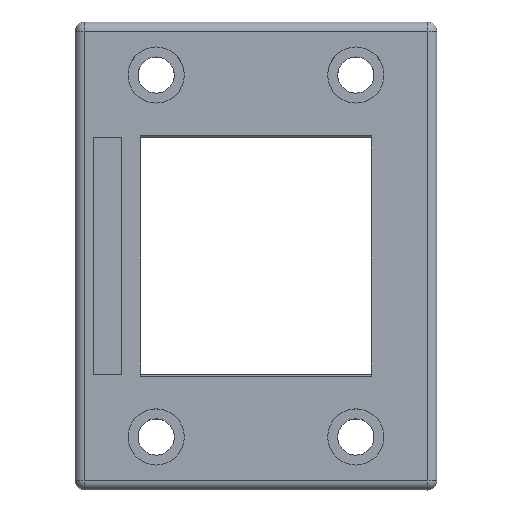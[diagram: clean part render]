
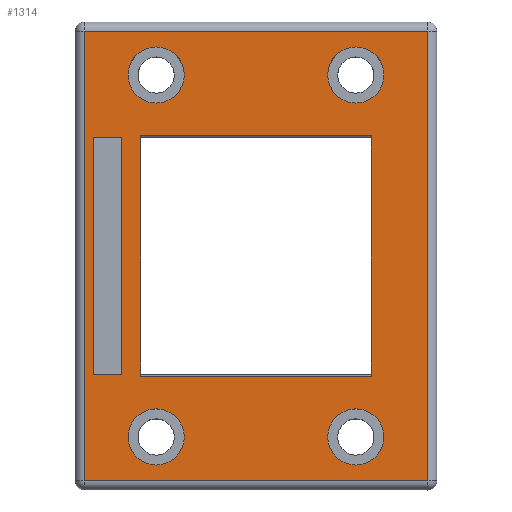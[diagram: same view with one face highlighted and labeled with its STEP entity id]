
A CAD part, top view. The second image highlights one B-rep face of the part: STEP entity #1314.
In plain terms, the highlighted planar face has unit normal (0, 0, 1).
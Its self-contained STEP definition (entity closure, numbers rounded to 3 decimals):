
#446=CIRCLE('',#12084,4.5);
#447=CIRCLE('',#12085,4.5);
#448=CIRCLE('',#12086,4.5);
#449=CIRCLE('',#12087,4.5);
#450=CIRCLE('',#12088,4.5);
#451=CIRCLE('',#12089,4.5);
#1314=ADVANCED_FACE('',(#2247,#2248,#2249,#2250,#2251,#2252,#2253),#1920,
 .T.);
#1920=PLANE('',#12090);
#2247=FACE_BOUND('',#2365,.T.);
#2248=FACE_BOUND('',#2366,.T.);
#2249=FACE_BOUND('',#2367,.T.);
#2250=FACE_BOUND('',#2368,.T.);
#2251=FACE_BOUND('',#2369,.T.);
#2252=FACE_BOUND('',#2370,.T.);
#2253=FACE_BOUND('',#2371,.T.);
#2365=EDGE_LOOP('',(#4026,#4027,#4028,#4029,#4030,#4031,#4032,#4033,#4034,
#4035,#4036,#4037));
#2366=EDGE_LOOP('',(#4038,#4039,#4040,#4041));
#2367=EDGE_LOOP('',(#4042,#4043,#4044,#4045));
#2368=EDGE_LOOP('',(#4046));
#2369=EDGE_LOOP('',(#4047,#4048));
#2370=EDGE_LOOP('',(#4049,#4050));
#2371=EDGE_LOOP('',(#4051));
#4026=ORIENTED_EDGE('',*,*,#8584,.T.);
#4027=ORIENTED_EDGE('',*,*,#8585,.T.);
#4028=ORIENTED_EDGE('',*,*,#8586,.T.);
#4029=ORIENTED_EDGE('',*,*,#8587,.T.);
#4030=ORIENTED_EDGE('',*,*,#8588,.T.);
#4031=ORIENTED_EDGE('',*,*,#8589,.T.);
#4032=ORIENTED_EDGE('',*,*,#8590,.F.);
#4033=ORIENTED_EDGE('',*,*,#8537,.T.);
#4034=ORIENTED_EDGE('',*,*,#8536,.T.);
#4035=ORIENTED_EDGE('',*,*,#8535,.T.);
#4036=ORIENTED_EDGE('',*,*,#8534,.T.);
#4037=ORIENTED_EDGE('',*,*,#8533,.T.);
#4038=ORIENTED_EDGE('',*,*,#8591,.T.);
#4039=ORIENTED_EDGE('',*,*,#8592,.T.);
#4040=ORIENTED_EDGE('',*,*,#8593,.T.);
#4041=ORIENTED_EDGE('',*,*,#8562,.T.);
#4042=ORIENTED_EDGE('',*,*,#8594,.F.);
#4043=ORIENTED_EDGE('',*,*,#8358,.F.);
#4044=ORIENTED_EDGE('',*,*,#8595,.F.);
#4045=ORIENTED_EDGE('',*,*,#8596,.F.);
#4046=ORIENTED_EDGE('',*,*,#8597,.T.);
#4047=ORIENTED_EDGE('',*,*,#8598,.T.);
#4048=ORIENTED_EDGE('',*,*,#8599,.T.);
#4049=ORIENTED_EDGE('',*,*,#8600,.T.);
#4050=ORIENTED_EDGE('',*,*,#8601,.T.);
#4051=ORIENTED_EDGE('',*,*,#8602,.T.);
#7192=VERTEX_POINT('',#16418);
#7193=VERTEX_POINT('',#16420);
#7357=VERTEX_POINT('',#16994);
#7358=VERTEX_POINT('',#16996);
#7359=VERTEX_POINT('',#16998);
#7360=VERTEX_POINT('',#17000);
#7361=VERTEX_POINT('',#17002);
#7362=VERTEX_POINT('',#17004);
#7382=VERTEX_POINT('',#17057);
#7383=VERTEX_POINT('',#17058);
#7399=VERTEX_POINT('',#17099);
#7400=VERTEX_POINT('',#17101);
#7401=VERTEX_POINT('',#17103);
#7402=VERTEX_POINT('',#17105);
#7403=VERTEX_POINT('',#17107);
#7404=VERTEX_POINT('',#17109);
#7405=VERTEX_POINT('',#17112);
#7406=VERTEX_POINT('',#17114);
#7407=VERTEX_POINT('',#17117);
#7408=VERTEX_POINT('',#17119);
#7409=VERTEX_POINT('',#17122);
#7410=VERTEX_POINT('',#17124);
#7411=VERTEX_POINT('',#17125);
#7412=VERTEX_POINT('',#17128);
#7413=VERTEX_POINT('',#17129);
#7414=VERTEX_POINT('',#17132);
#8358=EDGE_CURVE('',#7192,#7193,#9971,.T.);
#8533=EDGE_CURVE('',#7358,#7357,#10056,.T.);
#8534=EDGE_CURVE('',#7359,#7358,#10057,.T.);
#8535=EDGE_CURVE('',#7360,#7359,#10058,.T.);
#8536=EDGE_CURVE('',#7361,#7360,#10059,.T.);
#8537=EDGE_CURVE('',#7362,#7361,#10060,.T.);
#8562=EDGE_CURVE('',#7382,#7383,#10083,.T.);
#8584=EDGE_CURVE('',#7357,#7399,#10103,.T.);
#8585=EDGE_CURVE('',#7399,#7400,#10104,.T.);
#8586=EDGE_CURVE('',#7400,#7401,#10105,.T.);
#8587=EDGE_CURVE('',#7401,#7402,#10106,.T.);
#8588=EDGE_CURVE('',#7402,#7403,#10107,.T.);
#8589=EDGE_CURVE('',#7403,#7404,#10108,.T.);
#8590=EDGE_CURVE('',#7362,#7404,#10109,.T.);
#8591=EDGE_CURVE('',#7383,#7405,#10110,.T.);
#8592=EDGE_CURVE('',#7405,#7406,#10111,.T.);
#8593=EDGE_CURVE('',#7406,#7382,#10112,.T.);
#8594=EDGE_CURVE('',#7193,#7407,#10113,.T.);
#8595=EDGE_CURVE('',#7408,#7192,#10114,.T.);
#8596=EDGE_CURVE('',#7407,#7408,#10115,.T.);
#8597=EDGE_CURVE('',#7409,#7409,#446,.T.);
#8598=EDGE_CURVE('',#7410,#7411,#447,.T.);
#8599=EDGE_CURVE('',#7411,#7410,#448,.T.);
#8600=EDGE_CURVE('',#7412,#7413,#449,.T.);
#8601=EDGE_CURVE('',#7413,#7412,#450,.T.);
#8602=EDGE_CURVE('',#7414,#7414,#451,.T.);
#9971=LINE('',#16419,#10976);
#10056=LINE('',#16995,#11061);
#10057=LINE('',#16997,#11062);
#10058=LINE('',#16999,#11063);
#10059=LINE('',#17001,#11064);
#10060=LINE('',#17003,#11065);
#10083=LINE('',#17056,#11088);
#10103=LINE('',#17098,#11108);
#10104=LINE('',#17100,#11109);
#10105=LINE('',#17102,#11110);
#10106=LINE('',#17104,#11111);
#10107=LINE('',#17106,#11112);
#10108=LINE('',#17108,#11113);
#10109=LINE('',#17110,#11114);
#10110=LINE('',#17111,#11115);
#10111=LINE('',#17113,#11116);
#10112=LINE('',#17115,#11117);
#10113=LINE('',#17116,#11118);
#10114=LINE('',#17118,#11119);
#10115=LINE('',#17120,#11120);
#10976=VECTOR('',#12875,1.);
#11061=VECTOR('',#13116,1.);
#11062=VECTOR('',#13117,1.);
#11063=VECTOR('',#13118,1.);
#11064=VECTOR('',#13119,1.);
#11065=VECTOR('',#13120,1.);
#11088=VECTOR('',#13155,1.);
#11108=VECTOR('',#13185,1.);
#11109=VECTOR('',#13186,1.);
#11110=VECTOR('',#13187,1.);
#11111=VECTOR('',#13188,1.);
#11112=VECTOR('',#13189,1.);
#11113=VECTOR('',#13190,1.);
#11114=VECTOR('',#13191,1.);
#11115=VECTOR('',#13192,1.);
#11116=VECTOR('',#13193,1.);
#11117=VECTOR('',#13194,1.);
#11118=VECTOR('',#13195,1.);
#11119=VECTOR('',#13196,1.);
#11120=VECTOR('',#13197,1.);
#12084=AXIS2_PLACEMENT_3D('',#17121,#13198,#13199);
#12085=AXIS2_PLACEMENT_3D('',#17123,#13200,#13201);
#12086=AXIS2_PLACEMENT_3D('',#17126,#13202,#13203);
#12087=AXIS2_PLACEMENT_3D('',#17127,#13204,#13205);
#12088=AXIS2_PLACEMENT_3D('',#17130,#13206,#13207);
#12089=AXIS2_PLACEMENT_3D('',#17131,#13208,#13209);
#12090=AXIS2_PLACEMENT_3D('',#17133,#13210,#13211);
#12875=DIRECTION('',(0.,-1.,0.));
#13116=DIRECTION('',(0.,1.,0.));
#13117=DIRECTION('',(0.,1.,0.));
#13118=DIRECTION('',(0.,1.,0.));
#13119=DIRECTION('',(0.,1.,0.));
#13120=DIRECTION('',(0.,1.,0.));
#13155=DIRECTION('',(0.,-1.,0.));
#13185=DIRECTION('',(1.,0.,0.));
#13186=DIRECTION('',(0.,-1.,0.));
#13187=DIRECTION('',(0.,-1.,0.));
#13188=DIRECTION('',(0.,-1.,0.));
#13189=DIRECTION('',(0.,-1.,0.));
#13190=DIRECTION('',(0.,-1.,0.));
#13191=DIRECTION('',(1.,0.,0.));
#13192=DIRECTION('',(1.,0.,0.));
#13193=DIRECTION('',(0.,1.,0.));
#13194=DIRECTION('',(-1.,0.,0.));
#13195=DIRECTION('',(1.,0.,0.));
#13196=DIRECTION('',(-1.,0.,0.));
#13197=DIRECTION('',(0.,1.,0.));
#13198=DIRECTION('',(0.,0.,-1.));
#13199=DIRECTION('',(1.,0.,0.));
#13200=DIRECTION('',(0.,0.,-1.));
#13201=DIRECTION('',(1.,0.,0.));
#13202=DIRECTION('',(0.,0.,-1.));
#13203=DIRECTION('',(1.,0.,0.));
#13204=DIRECTION('',(0.,0.,-1.));
#13205=DIRECTION('',(1.,0.,0.));
#13206=DIRECTION('',(0.,0.,-1.));
#13207=DIRECTION('',(1.,0.,0.));
#13208=DIRECTION('',(0.,0.,-1.));
#13209=DIRECTION('',(1.,0.,0.));
#13210=DIRECTION('',(0.,0.,1.));
#13211=DIRECTION('',(0.,-1.,0.));
#16418=CARTESIAN_POINT('',(-69.992,154.206,1.526));
#16419=CARTESIAN_POINT('',(-69.992,246.086,1.526));
#16420=CARTESIAN_POINT('',(-69.992,116.207,1.526));
#16994=CARTESIAN_POINT('',(-62.492,154.556,1.526));
#16995=CARTESIAN_POINT('',(-62.492,246.086,1.526));
#16996=CARTESIAN_POINT('',(-62.492,152.306,1.526));
#16997=CARTESIAN_POINT('',(-62.492,144.83,1.526));
#16998=CARTESIAN_POINT('',(-62.492,137.353,1.526));
#16999=CARTESIAN_POINT('',(-62.492,246.086,1.526));
#17000=CARTESIAN_POINT('',(-62.492,133.56,1.526));
#17001=CARTESIAN_POINT('',(-62.492,125.081,1.526));
#17002=CARTESIAN_POINT('',(-62.492,116.603,1.526));
#17003=CARTESIAN_POINT('',(-62.492,246.086,1.526));
#17004=CARTESIAN_POINT('',(-62.492,115.856,1.526));
#17056=CARTESIAN_POINT('',(-71.492,246.086,1.526));
#17057=CARTESIAN_POINT('',(-71.492,171.206,1.526));
#17058=CARTESIAN_POINT('',(-71.492,99.207,1.526));
#17098=CARTESIAN_POINT('',(-55.223,154.556,1.526));
#17099=CARTESIAN_POINT('',(-25.492,154.556,1.526));
#17100=CARTESIAN_POINT('',(-25.492,246.086,1.526));
#17101=CARTESIAN_POINT('',(-25.492,152.506,1.526));
#17102=CARTESIAN_POINT('',(-25.492,144.93,1.526));
#17103=CARTESIAN_POINT('',(-25.492,137.353,1.526));
#17104=CARTESIAN_POINT('',(-25.492,246.086,1.526));
#17105=CARTESIAN_POINT('',(-25.492,133.56,1.526));
#17106=CARTESIAN_POINT('',(-25.492,125.081,1.526));
#17107=CARTESIAN_POINT('',(-25.492,116.603,1.526));
#17108=CARTESIAN_POINT('',(-25.492,246.086,1.526));
#17109=CARTESIAN_POINT('',(-25.492,115.856,1.526));
#17110=CARTESIAN_POINT('',(-72.042,115.856,1.526));
#17111=CARTESIAN_POINT('',(-57.742,99.207,1.526));
#17112=CARTESIAN_POINT('',(-16.492,99.207,1.526));
#17113=CARTESIAN_POINT('',(-16.492,246.086,1.526));
#17114=CARTESIAN_POINT('',(-16.492,171.206,1.526));
#17115=CARTESIAN_POINT('',(-57.742,171.206,1.526));
#17116=CARTESIAN_POINT('',(-72.042,116.207,1.526));
#17117=CARTESIAN_POINT('',(-65.492,116.207,1.526));
#17118=CARTESIAN_POINT('',(-72.042,154.206,1.526));
#17119=CARTESIAN_POINT('',(-65.492,154.206,1.526));
#17120=CARTESIAN_POINT('',(-65.492,246.086,1.526));
#17121=CARTESIAN_POINT('',(-59.992,164.206,1.526));
#17122=CARTESIAN_POINT('',(-55.492,164.206,1.526));
#17123=CARTESIAN_POINT('',(-59.992,106.206,1.526));
#17124=CARTESIAN_POINT('',(-59.992,101.706,1.526));
#17125=CARTESIAN_POINT('',(-59.992,110.706,1.526));
#17126=CARTESIAN_POINT('',(-59.992,106.206,1.526));
#17127=CARTESIAN_POINT('',(-27.992,106.206,1.526));
#17128=CARTESIAN_POINT('',(-27.992,101.706,1.526));
#17129=CARTESIAN_POINT('',(-27.992,110.706,1.526));
#17130=CARTESIAN_POINT('',(-27.992,106.206,1.526));
#17131=CARTESIAN_POINT('',(-27.992,164.206,1.526));
#17132=CARTESIAN_POINT('',(-27.992,168.706,1.526));
#17133=CARTESIAN_POINT('',(-72.042,246.086,1.526));
